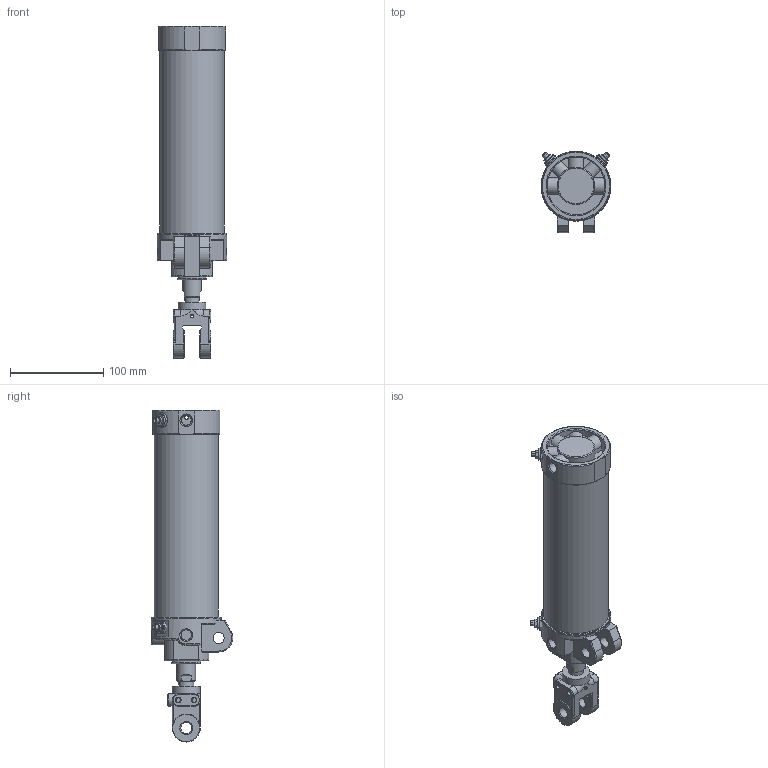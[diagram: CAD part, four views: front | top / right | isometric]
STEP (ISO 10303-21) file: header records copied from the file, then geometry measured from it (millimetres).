
FILE_DESCRIPTION((''),'2;1');
FILE_NAME('I:\3D電子目錄\氣缸\DCK\DCK\DCK-1A-63x150-Y.stp','2008-02-26T15:37:12',('Administrator'),(''),'Autodesk Inventor 11','Autodesk Inventor 11','');
FILE_SCHEMA(('AUTOMOTIVE_DESIGN { 1 0 10303 214 1 1 1 1 }'));
Length unit declared in the file: millimetre
Products named in the file (6): DCK-1A-63-Y; 緩衝針; 緩衝針-1; 緩衝針-201; 緩衝針-3
Assembly tree (8 placements, depth 3):
  DCK-1A-63-Y
    DCK-1A-63-Y
    緩衝針  x4
      緩衝針-1
      緩衝針-201
      緩衝針-3
Bounding box: 75 x 87.29 x 356 mm (x, y, z)
Volume: 400611.2 mm3; surface area: 168049.3 mm2
Topology: 16 solids, 16 shells, 674 faces, 1501 edges, 931 vertices
Faces by surface type: plane 246, cylinder 189, cone 145, torus 48, bspline 46
Full cylindrical faces by diameter (mm): 2 x1, 3 x2, 3.8 x2, 4 x6, 4.6 x4, 4.917 x2, 5 x8, 5.1 x4, 5.2 x12, 5.5 x4, 7 x1, 7.25 x1, 7.9 x4, 8 x2, 11.3 x3, 12 x4, 12.8 x4, 16 x3, 20 x1, 21 x1, 22 x2, 23 x1, 24.7 x1, 26 x1, 27 x1, 28 x1, 29 x1, 30 x3, 31 x1, 33 x1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
Entity records: 15192 total; most frequent: CARTESIAN_POINT 6245, DIRECTION 1818, ORIENTED_EDGE 1644, EDGE_CURVE 822, AXIS2_PLACEMENT_3D 781, EDGE_LOOP 636, VERTEX_POINT 590, FACE_OUTER_BOUND 425
